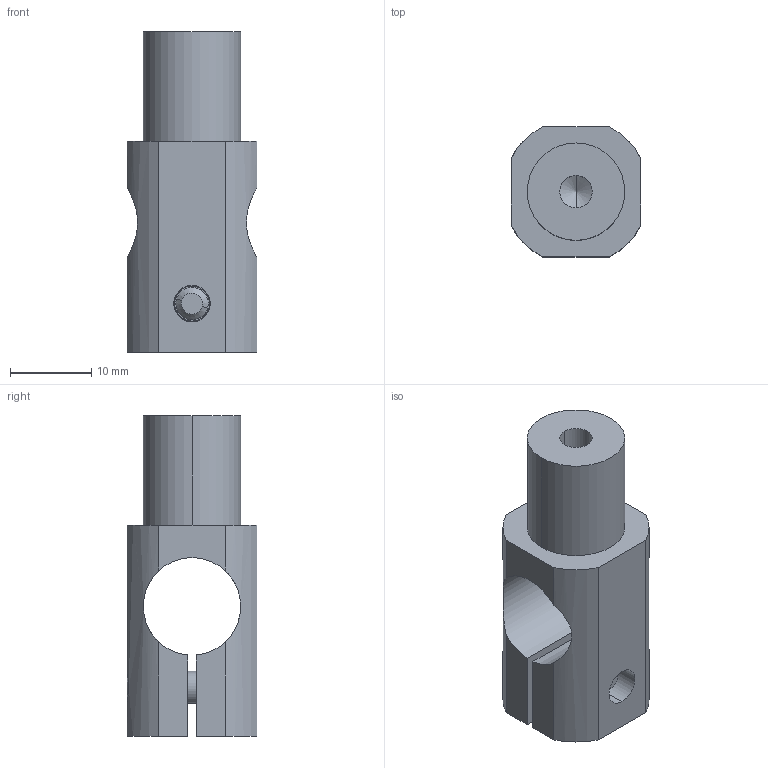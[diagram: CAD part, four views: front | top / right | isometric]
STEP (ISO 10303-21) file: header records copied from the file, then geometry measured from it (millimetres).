
FILE_DESCRIPTION (( 'STEP AP214' ), '1' );
FILE_NAME ('SMBR4-1212M4T.STEP', '2023-01-03T02:17:39', ( 'Windows User' ), ( 'P R C' ), 'SwSTEP 2.0', 'SolidWorks 2018', '' );
FILE_SCHEMA (( 'AUTOMOTIVE_DESIGN' ));
Length unit declared in the file: millimetre
Products named in the file (1): SMBR4-1212M4T
Bounding box: 16 x 16 x 39.5 mm (x, y, z)
Volume: 5297.1 mm3; surface area: 3743 mm2
Topology: 3 solids, 3 shells, 247 faces, 708 edges, 467 vertices
Faces by surface type: plane 218, cylinder 23, cone 4, bspline 2
Entity records: 11100 total; most frequent: CARTESIAN_POINT 1665, DIRECTION 1424, ORIENTED_EDGE 1412, EDGE_CURVE 706, AXIS2_PLACEMENT_3D 484, VERTEX_POINT 467, LINE 456, VECTOR 456
